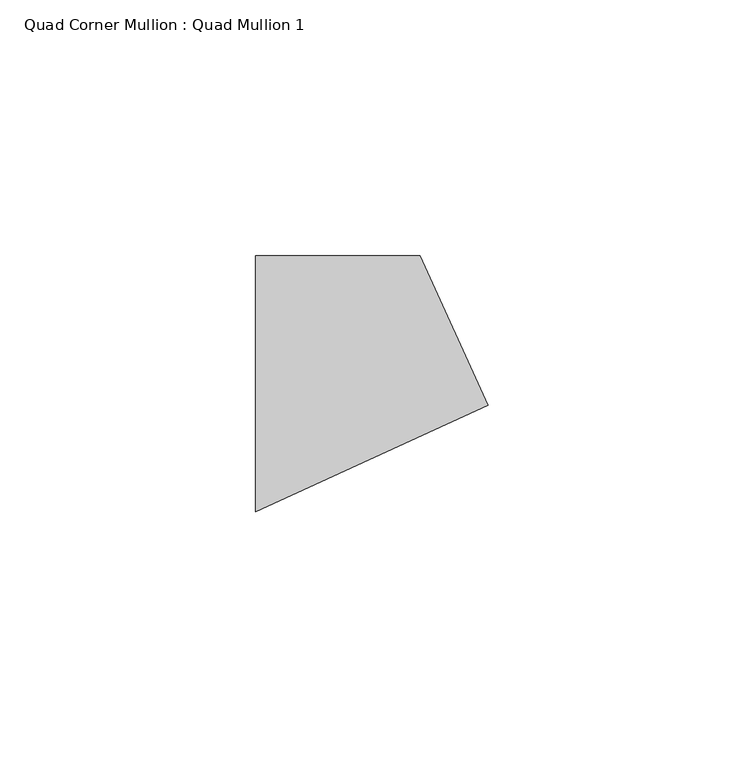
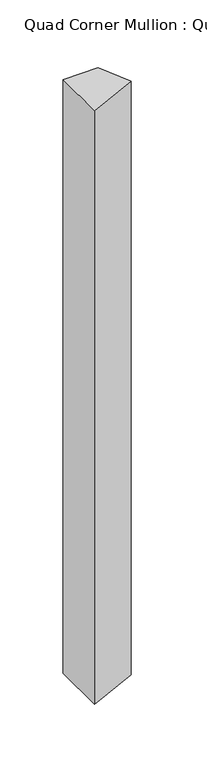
"""IFC4 building model written with IfcOpenShell, lengths in millimetres: member geometry, Quad Corner Mullion : Quad Mullion 1."""

from ifc_helpers import new_model, si_unit, frame, origin, place, context, project, spatial, polyline, outline, extrude, source, transform, mapped, element, save


def quad_corner_mullion_quad_mullion_1_e663f19c(model_context):
    return source(origin(), model_context, "Body", "SweptSolid", [
        extrude(outline(polyline([(29.4125559, -4.1926582), (-16.0523154, -25.0), (-16.0523154, 25.0), (16.0523154, 25.0), (29.4125559, -4.1926582)])), frame((0.0, 0.0, -575.0), z_axis=(0.0, 0.0, 1.0), x_axis=(1.0, 0.0, 0.0)), (0.0, 0.0, 1.0), 575.0),
    ])


if __name__ == "__main__":
    model = new_model("IFC4")
    model_context = context("Model", 3, world=origin())
    ifc_project = project(units=[si_unit("LENGTHUNIT", "METRE", prefix="MILLI")], contexts=[model_context])
    site = spatial("IfcSite", under=ifc_project)
    building = spatial("IfcBuilding", under=site)
    placement = place(None, origin())
    quad_corner_mullion_quad_mullion_1_shape = quad_corner_mullion_quad_mullion_1_e663f19c(model_context)
    element("IfcMember", 1, ObjectType="Quad Corner Mullion : Quad Mullion 1", at=placement, inside=building, context=model_context, shape_type="MappedRepresentation", body=[
        mapped(quad_corner_mullion_quad_mullion_1_shape, transform((0.0, 0.0, 0.0), x_axis=(1.0, 0.0, 0.0), y_axis=(0.0, 1.0, 0.0), z_axis=(0.0, 0.0, 1.0))),
    ])
    save(model, "model.ifc")
